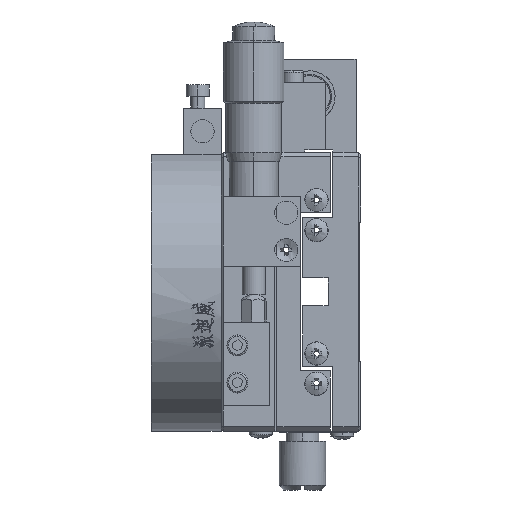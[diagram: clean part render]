
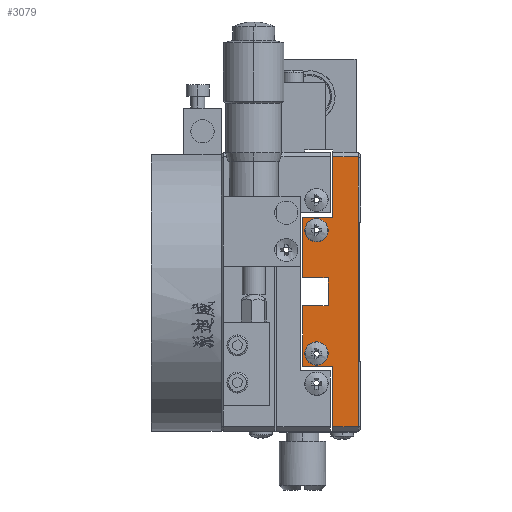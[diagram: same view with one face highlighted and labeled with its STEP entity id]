
A CAD part, left-side view. The second image highlights one B-rep face of the part: STEP entity #3079.
In plain terms, the highlighted planar face has unit normal (1, 0, 0).
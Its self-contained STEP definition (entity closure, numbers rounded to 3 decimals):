
#82 = CARTESIAN_POINT ( 'NONE',  ( -4.021, -17.325, 123.083 ) ) ;
#328 = CARTESIAN_POINT ( 'NONE',  ( -4.021, -8.325, 133.333 ) ) ;
#686 = DIRECTION ( 'NONE',  ( 0., -1., 0. ) ) ;
#723 = EDGE_CURVE ( 'NONE', #17409, #25585, #19290, .T. ) ;
#754 = CARTESIAN_POINT ( 'NONE',  ( -4.021, -8.325, 106.833 ) ) ;
#904 = ORIENTED_EDGE ( 'NONE', *, *, #33456, .F. ) ;
#1019 = EDGE_CURVE ( 'NONE', #54695, #1726, #51541, .T. ) ;
#1435 = VECTOR ( 'NONE', #4428, 1000. ) ;
#1726 = VERTEX_POINT ( 'NONE', #39379 ) ;
#2129 = VECTOR ( 'NONE', #32555, 1000. ) ;
#2192 = DIRECTION ( 'NONE',  ( 0., 0., -1. ) ) ;
#2266 = DIRECTION ( 'NONE',  ( 0., 0., 1. ) ) ;
#2400 = VECTOR ( 'NONE', #27910, 1000. ) ;
#2464 = VERTEX_POINT ( 'NONE', #35896 ) ;
#3025 = VERTEX_POINT ( 'NONE', #44469 ) ;
#3079 = ADVANCED_FACE ( 'NONE', ( #28594, #33287, #17192 ), #32593, .T. ) ;
#3660 = CIRCLE ( 'NONE', #43327, 2.501 ) ;
#4428 = DIRECTION ( 'NONE',  ( 0., 1., 0. ) ) ;
#5625 = EDGE_CURVE ( 'NONE', #3025, #19624, #53399, .T. ) ;
#6463 = DIRECTION ( 'NONE',  ( 0., 0., 1. ) ) ;
#8892 = EDGE_CURVE ( 'NONE', #25585, #24658, #17570, .T. ) ;
#9842 = VECTOR ( 'NONE', #11861, 1000. ) ;
#9985 = LINE ( 'NONE', #43534, #34177 ) ;
#10693 = CARTESIAN_POINT ( 'NONE',  ( -4.021, -10.826, 106.833 ) ) ;
#11190 = CARTESIAN_POINT ( 'NONE',  ( -4.021, -11.825, 149.083 ) ) ;
#11861 = DIRECTION ( 'NONE',  ( 0., 0., 1. ) ) ;
#12505 = CIRCLE ( 'NONE', #52910, 2.501 ) ;
#12754 = DIRECTION ( 'NONE',  ( 0., 1., 0. ) ) ;
#13538 = ORIENTED_EDGE ( 'NONE', *, *, #52636, .T. ) ;
#14583 = ORIENTED_EDGE ( 'NONE', *, *, #1019, .T. ) ;
#14811 = EDGE_CURVE ( 'NONE', #19624, #3025, #3660, .T. ) ;
#15062 = VECTOR ( 'NONE', #42834, 1000. ) ;
#15066 = EDGE_CURVE ( 'NONE', #24089, #27824, #26480, .T. ) ;
#17192 = FACE_BOUND ( 'NONE', #20314, .T. ) ;
#17409 = VERTEX_POINT ( 'NONE', #38897 ) ;
#17570 = LINE ( 'NONE', #82, #1435 ) ;
#17613 = ORIENTED_EDGE ( 'NONE', *, *, #8892, .T. ) ;
#17686 = CARTESIAN_POINT ( 'NONE',  ( -4.021, -8.325, 133.333 ) ) ;
#18972 = ORIENTED_EDGE ( 'NONE', *, *, #33909, .T. ) ;
#19290 = LINE ( 'NONE', #27654, #25988 ) ;
#19500 = CARTESIAN_POINT ( 'NONE',  ( -4.021, -17.325, 149.083 ) ) ;
#19624 = VERTEX_POINT ( 'NONE', #10693 ) ;
#19704 = CARTESIAN_POINT ( 'NONE',  ( -4.021, -5.325, 136.083 ) ) ;
#20301 = ORIENTED_EDGE ( 'NONE', *, *, #35143, .T. ) ;
#20314 = EDGE_LOOP ( 'NONE', ( #44755, #13538 ) ) ;
#20513 = ORIENTED_EDGE ( 'NONE', *, *, #15066, .T. ) ;
#20615 = VERTEX_POINT ( 'NONE', #44254 ) ;
#20898 = VECTOR ( 'NONE', #12754, 1000. ) ;
#20904 = EDGE_CURVE ( 'NONE', #1726, #17409, #43711, .T. ) ;
#21120 = EDGE_CURVE ( 'NONE', #24892, #54695, #36322, .T. ) ;
#21283 = CARTESIAN_POINT ( 'NONE',  ( -4.021, -8.325, 106.833 ) ) ;
#21635 = DIRECTION ( 'NONE',  ( -1., 0., 0. ) ) ;
#22053 = DIRECTION ( 'NONE',  ( 0., 1., 0. ) ) ;
#22611 = EDGE_CURVE ( 'NONE', #27824, #39017, #47665, .T. ) ;
#22890 = EDGE_CURVE ( 'NONE', #39017, #2464, #9985, .T. ) ;
#24089 = VERTEX_POINT ( 'NONE', #19704 ) ;
#24290 = CARTESIAN_POINT ( 'NONE',  ( -4.021, -5.325, 149.083 ) ) ;
#24658 = VERTEX_POINT ( 'NONE', #44003 ) ;
#24789 = VECTOR ( 'NONE', #49624, 1000. ) ;
#24892 = VERTEX_POINT ( 'NONE', #53435 ) ;
#25182 = EDGE_CURVE ( 'NONE', #24658, #24089, #43776, .T. ) ;
#25585 = VERTEX_POINT ( 'NONE', #33431 ) ;
#25988 = VECTOR ( 'NONE', #6463, 1000. ) ;
#26292 = ORIENTED_EDGE ( 'NONE', *, *, #14811, .T. ) ;
#26474 = DIRECTION ( 'NONE',  ( -1., 0., 0. ) ) ;
#26480 = LINE ( 'NONE', #40193, #46682 ) ;
#27580 = DIRECTION ( 'NONE',  ( 0., -1., 0. ) ) ;
#27654 = CARTESIAN_POINT ( 'NONE',  ( -4.021, -10.825, 149.083 ) ) ;
#27824 = VERTEX_POINT ( 'NONE', #36371 ) ;
#27910 = DIRECTION ( 'NONE',  ( 0., 0., 1. ) ) ;
#28594 = FACE_OUTER_BOUND ( 'NONE', #43148, .T. ) ;
#28808 = DIRECTION ( 'NONE',  ( 0., -1., 0. ) ) ;
#29229 = CARTESIAN_POINT ( 'NONE',  ( -4.021, -17.325, 91.083 ) ) ;
#29869 = DIRECTION ( 'NONE',  ( 0., 1., 0. ) ) ;
#30289 = VERTEX_POINT ( 'NONE', #29229 ) ;
#30342 = ORIENTED_EDGE ( 'NONE', *, *, #723, .T. ) ;
#30432 = DIRECTION ( 'NONE',  ( 0., 1., 0. ) ) ;
#30644 = VECTOR ( 'NONE', #2266, 1000. ) ;
#31709 = ORIENTED_EDGE ( 'NONE', *, *, #5625, .T. ) ;
#32476 = EDGE_CURVE ( 'NONE', #47640, #20615, #38112, .T. ) ;
#32555 = DIRECTION ( 'NONE',  ( 0., 0., 1. ) ) ;
#32593 = PLANE ( 'NONE',  #34471 ) ;
#33287 = FACE_BOUND ( 'NONE', #35063, .T. ) ;
#33431 = CARTESIAN_POINT ( 'NONE',  ( -4.021, -10.825, 123.083 ) ) ;
#33456 = EDGE_CURVE ( 'NONE', #30289, #2464, #38003, .T. ) ;
#33909 = EDGE_CURVE ( 'NONE', #51966, #24892, #44064, .T. ) ;
#34177 = VECTOR ( 'NONE', #686, 1000. ) ;
#34471 = AXIS2_PLACEMENT_3D ( 'NONE', #19500, #49732, #2192 ) ;
#34784 = DIRECTION ( 'NONE',  ( -1., 0., 0. ) ) ;
#34979 = VECTOR ( 'NONE', #28808, 1000. ) ;
#35063 = EDGE_LOOP ( 'NONE', ( #31709, #26292 ) ) ;
#35143 = EDGE_CURVE ( 'NONE', #30289, #51966, #43299, .T. ) ;
#35832 = AXIS2_PLACEMENT_3D ( 'NONE', #328, #21635, #29869 ) ;
#35896 = CARTESIAN_POINT ( 'NONE',  ( -4.021, -17.325, 149.083 ) ) ;
#36322 = LINE ( 'NONE', #37736, #20898 ) ;
#36371 = CARTESIAN_POINT ( 'NONE',  ( -4.021, -11.825, 136.083 ) ) ;
#37379 = CARTESIAN_POINT ( 'NONE',  ( -4.021, -5.325, 104.083 ) ) ;
#37736 = CARTESIAN_POINT ( 'NONE',  ( -4.021, -17.325, 104.083 ) ) ;
#37751 = CARTESIAN_POINT ( 'NONE',  ( -4.021, -5.825, 133.333 ) ) ;
#38003 = LINE ( 'NONE', #45667, #30644 ) ;
#38112 = CIRCLE ( 'NONE', #35832, 2.501 ) ;
#38706 = DIRECTION ( 'NONE',  ( 0., 1., 0. ) ) ;
#38889 = CARTESIAN_POINT ( 'NONE',  ( -4.021, -17.325, 91.083 ) ) ;
#38897 = CARTESIAN_POINT ( 'NONE',  ( -4.021, -10.825, 117.083 ) ) ;
#39017 = VERTEX_POINT ( 'NONE', #48659 ) ;
#39379 = CARTESIAN_POINT ( 'NONE',  ( -4.021, -5.325, 117.083 ) ) ;
#39722 = ORIENTED_EDGE ( 'NONE', *, *, #22611, .T. ) ;
#39905 = AXIS2_PLACEMENT_3D ( 'NONE', #754, #34784, #22053 ) ;
#40193 = CARTESIAN_POINT ( 'NONE',  ( -4.021, -17.325, 136.083 ) ) ;
#42834 = DIRECTION ( 'NONE',  ( 0., 1., 0. ) ) ;
#43148 = EDGE_LOOP ( 'NONE', ( #20513, #39722, #47779, #904, #20301, #18972, #52094, #14583, #47079, #30342, #17613, #46587 ) ) ;
#43299 = LINE ( 'NONE', #38889, #15062 ) ;
#43327 = AXIS2_PLACEMENT_3D ( 'NONE', #21283, #47180, #30432 ) ;
#43534 = CARTESIAN_POINT ( 'NONE',  ( -4.021, -17.325, 149.083 ) ) ;
#43711 = LINE ( 'NONE', #45750, #34979 ) ;
#43776 = LINE ( 'NONE', #24290, #2129 ) ;
#44003 = CARTESIAN_POINT ( 'NONE',  ( -4.021, -5.325, 123.083 ) ) ;
#44064 = LINE ( 'NONE', #11190, #2400 ) ;
#44254 = CARTESIAN_POINT ( 'NONE',  ( -4.021, -10.826, 133.333 ) ) ;
#44469 = CARTESIAN_POINT ( 'NONE',  ( -4.021, -5.825, 106.833 ) ) ;
#44755 = ORIENTED_EDGE ( 'NONE', *, *, #32476, .T. ) ;
#45667 = CARTESIAN_POINT ( 'NONE',  ( -4.021, -17.325, 149.083 ) ) ;
#45750 = CARTESIAN_POINT ( 'NONE',  ( -4.021, -17.325, 117.083 ) ) ;
#46343 = CARTESIAN_POINT ( 'NONE',  ( -4.021, -11.825, 91.083 ) ) ;
#46587 = ORIENTED_EDGE ( 'NONE', *, *, #25182, .T. ) ;
#46682 = VECTOR ( 'NONE', #27580, 1000. ) ;
#47079 = ORIENTED_EDGE ( 'NONE', *, *, #20904, .T. ) ;
#47180 = DIRECTION ( 'NONE',  ( -1., 0., 0. ) ) ;
#47640 = VERTEX_POINT ( 'NONE', #37751 ) ;
#47665 = LINE ( 'NONE', #54555, #24789 ) ;
#47779 = ORIENTED_EDGE ( 'NONE', *, *, #22890, .T. ) ;
#48659 = CARTESIAN_POINT ( 'NONE',  ( -4.021, -11.825, 149.083 ) ) ;
#49624 = DIRECTION ( 'NONE',  ( 0., 0., 1. ) ) ;
#49732 = DIRECTION ( 'NONE',  ( 1., 0., 0. ) ) ;
#51541 = LINE ( 'NONE', #55126, #9842 ) ;
#51966 = VERTEX_POINT ( 'NONE', #46343 ) ;
#52094 = ORIENTED_EDGE ( 'NONE', *, *, #21120, .T. ) ;
#52636 = EDGE_CURVE ( 'NONE', #20615, #47640, #12505, .T. ) ;
#52910 = AXIS2_PLACEMENT_3D ( 'NONE', #17686, #26474, #38706 ) ;
#53399 = CIRCLE ( 'NONE', #39905, 2.501 ) ;
#53435 = CARTESIAN_POINT ( 'NONE',  ( -4.021, -11.825, 104.083 ) ) ;
#54555 = CARTESIAN_POINT ( 'NONE',  ( -4.021, -11.825, 149.083 ) ) ;
#54695 = VERTEX_POINT ( 'NONE', #37379 ) ;
#55126 = CARTESIAN_POINT ( 'NONE',  ( -4.021, -5.325, 149.083 ) ) ;
